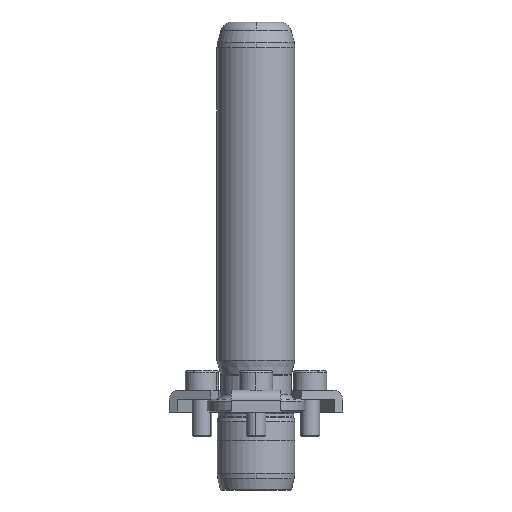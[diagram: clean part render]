
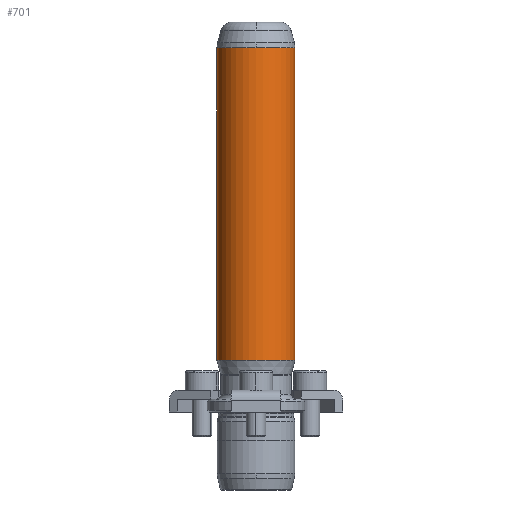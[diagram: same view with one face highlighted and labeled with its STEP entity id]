
A CAD part, front view. The second image highlights one B-rep face of the part: STEP entity #701.
In plain terms, the highlighted cylindrical face has radius 10 mm (diameter 20 mm), a partial arc.
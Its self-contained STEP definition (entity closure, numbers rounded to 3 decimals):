
#614=CARTESIAN_POINT('',(0.0,-10.,93.342));
#615=VERTEX_POINT('',#614);
#642=CARTESIAN_POINT('',(-10.0,0.,93.342));
#643=VERTEX_POINT('',#642);
#651=CARTESIAN_POINT('',(0.0,0.,93.342));
#652=DIRECTION('',(0.0,0.0,1.0));
#653=DIRECTION('',(1.0,0.0,0.0));
#654=AXIS2_PLACEMENT_3D('',#651,#652,#653);
#655=CIRCLE('',#654,10.);
#656=EDGE_CURVE('',#643,#615,#655,.T.);
#661=CARTESIAN_POINT('',(0.0,0.,53.321));
#662=DIRECTION('',(0.0,0.,1.0));
#663=DIRECTION('',(1.0,0.0,0.0));
#664=AXIS2_PLACEMENT_3D('',#661,#662,#663);
#665=CYLINDRICAL_SURFACE('',#664,10.0);
#666=CARTESIAN_POINT('',(10.,0.,93.342));
#667=VERTEX_POINT('',#666);
#668=CARTESIAN_POINT('',(10.0,0.,13.3));
#669=VERTEX_POINT('',#668);
#670=CARTESIAN_POINT('',(10.,0.,93.342));
#671=DIRECTION('',(0.0,0.0,-1.0));
#672=VECTOR('',#671,80.042);
#673=LINE('',#670,#672);
#674=EDGE_CURVE('',#667,#669,#673,.T.);
#675=ORIENTED_EDGE('',*,*,#674,.F.);
#676=CARTESIAN_POINT('',(0.0,0.,93.342));
#677=DIRECTION('',(0.0,0.0,1.0));
#678=DIRECTION('',(1.0,0.0,0.0));
#679=AXIS2_PLACEMENT_3D('',#676,#677,#678);
#680=CIRCLE('',#679,10.);
#681=EDGE_CURVE('',#615,#667,#680,.T.);
#682=ORIENTED_EDGE('',*,*,#681,.F.);
#683=ORIENTED_EDGE('',*,*,#656,.F.);
#684=CARTESIAN_POINT('',(-10.,0.,13.3));
#685=VERTEX_POINT('',#684);
#686=CARTESIAN_POINT('',(-10.0,0.,93.342));
#687=DIRECTION('',(0.0,0.0,-1.0));
#688=VECTOR('',#687,80.042);
#689=LINE('',#686,#688);
#690=EDGE_CURVE('',#643,#685,#689,.T.);
#691=ORIENTED_EDGE('',*,*,#690,.T.);
#692=CARTESIAN_POINT('',(0.0,0.,13.3));
#693=DIRECTION('',(0.0,0.0,1.0));
#694=DIRECTION('',(1.0,0.0,0.0));
#695=AXIS2_PLACEMENT_3D('',#692,#693,#694);
#696=CIRCLE('',#695,10.0);
#697=EDGE_CURVE('',#685,#669,#696,.T.);
#698=ORIENTED_EDGE('',*,*,#697,.T.);
#699=EDGE_LOOP('',(#675,#682,#683,#691,#698));
#700=FACE_OUTER_BOUND('',#699,.T.);
#701=ADVANCED_FACE('',(#700),#665,.T.);
